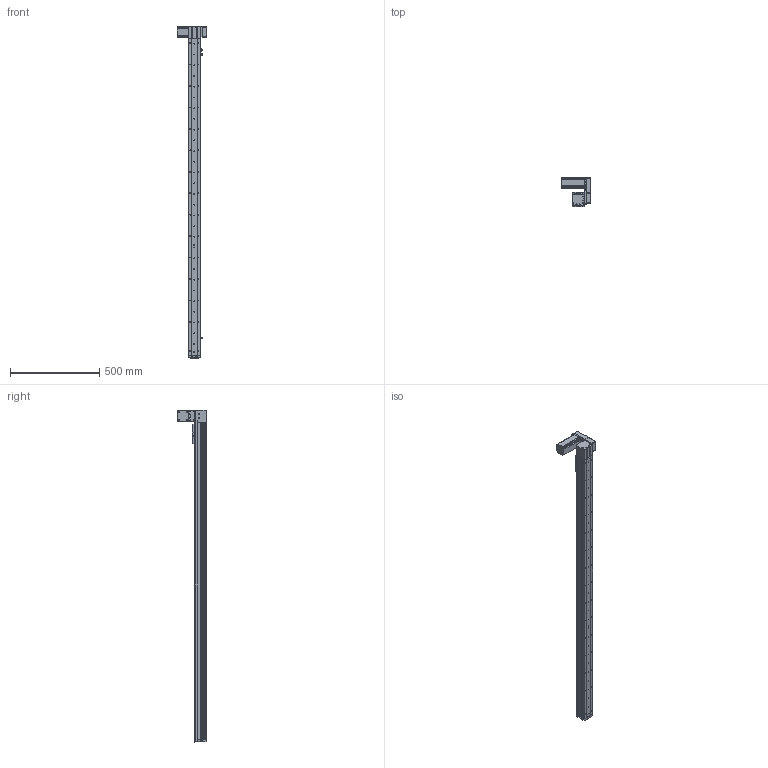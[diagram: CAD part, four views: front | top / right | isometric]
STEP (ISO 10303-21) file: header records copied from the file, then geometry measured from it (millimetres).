
FILE_DESCRIPTION (( 'STEP AP214' ), '1' );
FILE_NAME ('KSD68BS-S1600-MLU-CR.STEP', '2019-08-27T08:49:19', ( '微软用户' ), ( '微软中国' ), 'SwSTEP 2.0', 'SolidWorks 2014', '' );
FILE_SCHEMA (( 'AUTOMOTIVE_DESIGN' ));
Length unit declared in the file: millimetre
Products named in the file (14): 台达ECMA－C20604AS伺服电机（400W); KSD68BS 1600行程底板全封闭; KSD68BS-S1600-MLU-CR; 68遵裔啣揤啣1; KSD68BS 1600行程盖板全封闭; 68宽单导轨全封闭丝杆传动安装板1防护罩; KSD68BS 1600行程侧板全封闭; 68宽单导轨全封闭同步带端板; 68单导轨全封闭同步带电机座左; 68单导轨全封闭同步带安装板; 悵誘欶奻狟殏; 68宽马达安装板连板上折同步带; 感应片68宽全封闭; U倰嫖萇EEㄜSX672
Assembly tree (16 placements, depth 2):
  KSD68BS-S1600-MLU-CR
    KSD68BS 1600行程底板全封闭
    台达ECMA－C20604AS伺服电机（400W)
    U倰嫖萇EEㄜSX672  x3
    感应片68宽全封闭
    68宽马达安装板连板上折同步带
    悵誘欶奻狟殏
    68单导轨全封闭同步带安装板
    68单导轨全封闭同步带电机座左
    68宽单导轨全封闭同步带端板
    KSD68BS 1600行程侧板全封闭  x2
    68宽单导轨全封闭丝杆传动安装板1防护罩
    KSD68BS 1600行程盖板全封闭
    68遵裔啣揤啣1
Bounding box: 167.2 x 159.5 x 1858.1 mm (x, y, z)
Volume: 3342898.5 mm3; surface area: 1351567.2 mm2
Topology: 17 solids, 17 shells, 1588 faces, 4580 edges, 2920 vertices
Faces by surface type: cylinder 782, plane 622, cone 184
Entity records: 52335 total; most frequent: CARTESIAN_POINT 9126, DIRECTION 7784, ORIENTED_EDGE 7450, EDGE_CURVE 3725, AXIS2_PLACEMENT_3D 2838, VERTEX_POINT 2442, LINE 2108, VECTOR 2108
